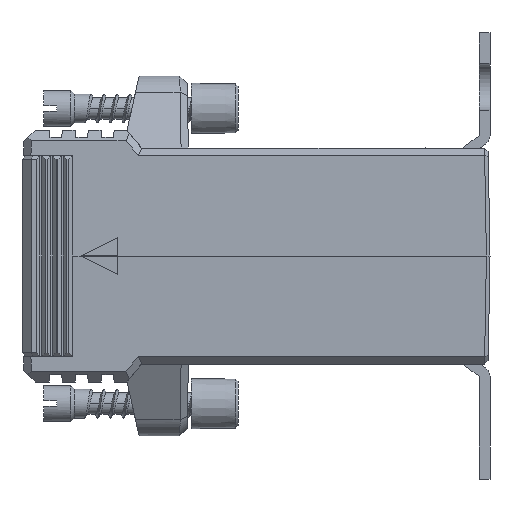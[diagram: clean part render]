
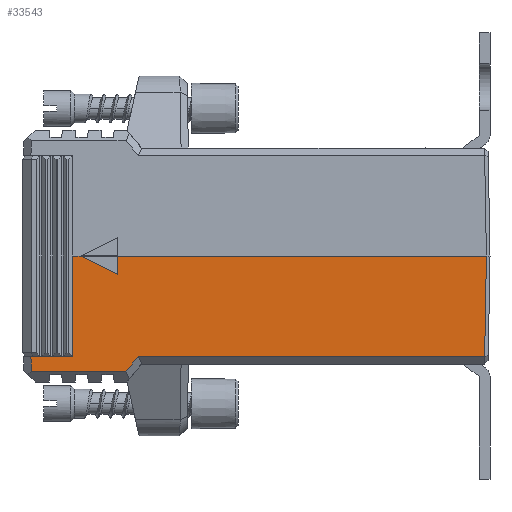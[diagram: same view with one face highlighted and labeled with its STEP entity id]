
A CAD part, left-side view. The second image highlights one B-rep face of the part: STEP entity #33543.
In plain terms, the highlighted planar face has unit normal (-1, 0, -0.018).
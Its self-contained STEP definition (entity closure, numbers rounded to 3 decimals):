
#655=PLANE('',#35450);
#2876=FACE_OUTER_BOUND('',#4724,.T.);
#4724=EDGE_LOOP('',(#22464,#22465,#22466,#22467,#22468,#22469,#22470,#22471,
#22472,#22473,#22474,#22475,#22476));
#7207=LINE('',#47487,#10641);
#7278=LINE('',#47640,#10712);
#7309=LINE('',#47701,#10743);
#7310=LINE('',#47703,#10744);
#7311=LINE('',#47705,#10745);
#7312=LINE('',#47707,#10746);
#7313=LINE('',#47709,#10747);
#7314=LINE('',#47711,#10748);
#7315=LINE('',#47713,#10749);
#7316=LINE('',#47715,#10750);
#7317=LINE('',#47717,#10751);
#7318=LINE('',#47719,#10752);
#7319=LINE('',#47720,#10753);
#10641=VECTOR('',#37618,10.);
#10712=VECTOR('',#37755,10.);
#10743=VECTOR('',#37830,1000.);
#10744=VECTOR('',#37831,1000.);
#10745=VECTOR('',#37832,1000.);
#10746=VECTOR('',#37833,1000.);
#10747=VECTOR('',#37834,1000.);
#10748=VECTOR('',#37835,1000.);
#10749=VECTOR('',#37836,1000.);
#10750=VECTOR('',#37837,1000.);
#10751=VECTOR('',#37838,1000.);
#10752=VECTOR('',#37839,1000.);
#10753=VECTOR('',#37840,1000.);
#14145=VERTEX_POINT('',#47485);
#14146=VERTEX_POINT('',#47486);
#14195=VERTEX_POINT('',#47639);
#14203=VERTEX_POINT('',#47700);
#14204=VERTEX_POINT('',#47702);
#14205=VERTEX_POINT('',#47704);
#14206=VERTEX_POINT('',#47706);
#14207=VERTEX_POINT('',#47708);
#14208=VERTEX_POINT('',#47710);
#14209=VERTEX_POINT('',#47712);
#14210=VERTEX_POINT('',#47714);
#14211=VERTEX_POINT('',#47716);
#14212=VERTEX_POINT('',#47718);
#17294=EDGE_CURVE('',#14145,#14146,#7207,.T.);
#17371=EDGE_CURVE('',#14146,#14195,#7278,.T.);
#17402=EDGE_CURVE('',#14203,#14195,#7309,.T.);
#17403=EDGE_CURVE('',#14203,#14204,#7310,.T.);
#17404=EDGE_CURVE('',#14204,#14205,#7311,.T.);
#17405=EDGE_CURVE('',#14206,#14205,#7312,.T.);
#17406=EDGE_CURVE('',#14206,#14207,#7313,.T.);
#17407=EDGE_CURVE('',#14207,#14208,#7314,.T.);
#17408=EDGE_CURVE('',#14208,#14209,#7315,.T.);
#17409=EDGE_CURVE('',#14210,#14209,#7316,.T.);
#17410=EDGE_CURVE('',#14211,#14210,#7317,.T.);
#17411=EDGE_CURVE('',#14212,#14211,#7318,.T.);
#17412=EDGE_CURVE('',#14145,#14212,#7319,.T.);
#22464=ORIENTED_EDGE('',*,*,#17294,.T.);
#22465=ORIENTED_EDGE('',*,*,#17371,.T.);
#22466=ORIENTED_EDGE('',*,*,#17402,.F.);
#22467=ORIENTED_EDGE('',*,*,#17403,.T.);
#22468=ORIENTED_EDGE('',*,*,#17404,.T.);
#22469=ORIENTED_EDGE('',*,*,#17405,.F.);
#22470=ORIENTED_EDGE('',*,*,#17406,.T.);
#22471=ORIENTED_EDGE('',*,*,#17407,.T.);
#22472=ORIENTED_EDGE('',*,*,#17408,.T.);
#22473=ORIENTED_EDGE('',*,*,#17409,.F.);
#22474=ORIENTED_EDGE('',*,*,#17410,.F.);
#22475=ORIENTED_EDGE('',*,*,#17411,.F.);
#22476=ORIENTED_EDGE('',*,*,#17412,.F.);
#33543=ADVANCED_FACE('',(#2876),#655,.T.);
#35450=AXIS2_PLACEMENT_3D('',#47699,#37828,#37829);
#37618=DIRECTION('',(0.017,0.,-1.));
#37755=DIRECTION('',(0.,1.,0.));
#37828=DIRECTION('center_axis',(-1.,0.,
-0.017));
#37829=DIRECTION('ref_axis',(-0.017,0.,1.));
#37830=DIRECTION('',(-0.017,-0.017,1.));
#37831=DIRECTION('',(0.,1.,0.));
#37832=DIRECTION('',(0.017,-0.017,-1.));
#37833=DIRECTION('',(0.,1.,0.));
#37834=DIRECTION('',(-0.013,-0.643,0.766));
#37835=DIRECTION('',(0.,-1.,0.));
#37836=DIRECTION('',(-0.017,-0.017,1.));
#37837=DIRECTION('',(0.,-1.,0.));
#37838=DIRECTION('',(-0.017,0.,1.));
#37839=DIRECTION('',(0.008,-0.894,-0.447));
#37840=DIRECTION('',(0.,-1.,0.));
#47485=CARTESIAN_POINT('',(-24.25,31.,0.));
#47486=CARTESIAN_POINT('',(-24.007,31.,-13.925));
#47487=CARTESIAN_POINT('',(-24.372,31.,6.965));
#47639=CARTESIAN_POINT('',(-24.007,31.254,-13.925));
#47640=CARTESIAN_POINT('',(-24.007,36.,-13.925));
#47699=CARTESIAN_POINT('Origin',(-24.25,38.,0.));
#47700=CARTESIAN_POINT('',(-24.006,31.256,-14.));
#47701=CARTESIAN_POINT('',(-24.248,31.013,-0.122));
#47702=CARTESIAN_POINT('',(-24.006,36.755,-14.));
#47703=CARTESIAN_POINT('',(-24.006,38.,-14.));
#47704=CARTESIAN_POINT('',(-23.971,36.721,-16.));
#47705=CARTESIAN_POINT('',(-24.25,37.,0.017));
#47706=CARTESIAN_POINT('',(-23.971,23.559,-16.));
#47707=CARTESIAN_POINT('',(-23.971,38.,-16.));
#47708=CARTESIAN_POINT('',(-24.006,21.881,-14.));
#47709=CARTESIAN_POINT('',(-24.011,21.645,-13.719));
#47710=CARTESIAN_POINT('',(-24.006,-26.255,-14.));
#47711=CARTESIAN_POINT('',(-24.006,-26.738,-14.));
#47712=CARTESIAN_POINT('',(-24.25,-26.5,0.));
#47713=CARTESIAN_POINT('',(-24.23,-26.48,-1.125));
#47714=CARTESIAN_POINT('',(-24.25,24.756,0.));
#47715=CARTESIAN_POINT('',(-24.25,38.,0.));
#47716=CARTESIAN_POINT('',(-24.206,24.756,-2.5));
#47717=CARTESIAN_POINT('',(-24.206,24.756,-2.5));
#47718=CARTESIAN_POINT('',(-24.25,29.756,0.));
#47719=CARTESIAN_POINT('',(-24.25,29.756,0.));
#47720=CARTESIAN_POINT('',(-24.25,38.,0.));
